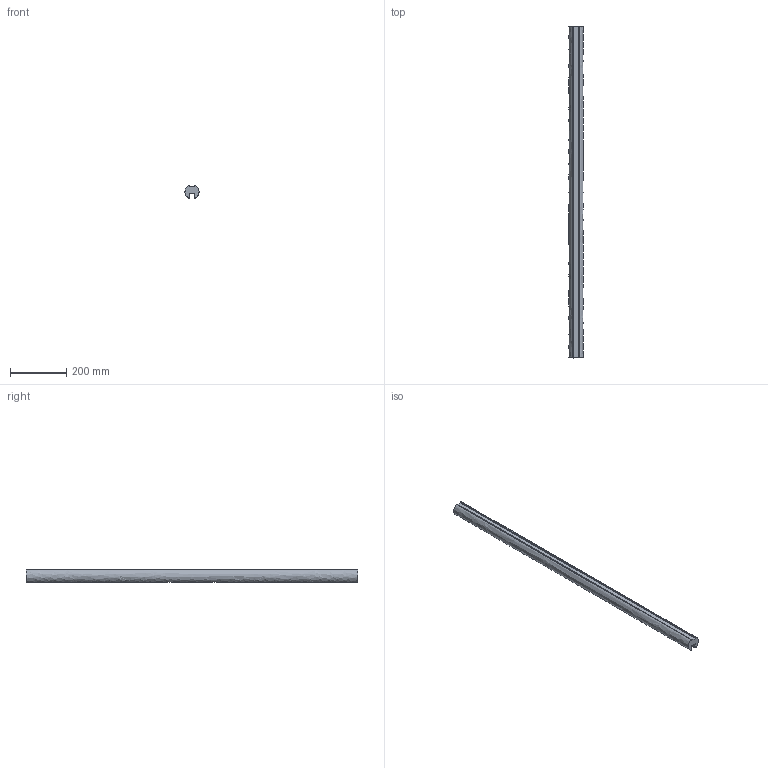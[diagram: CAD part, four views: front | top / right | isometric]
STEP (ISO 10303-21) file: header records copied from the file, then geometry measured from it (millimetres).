
FILE_DESCRIPTION(/* description */ (''),/* implementation_level */ '2;1');
FILE_NAME(/* name */ 'Gople System - Track 1180',/* time_stamp */ '2023-03-13T11:36:35+01:00',/* author */ (''),/* organization */ (''),/* preprocessor_version */ 'ST-DEVELOPER v16.5',/* originating_system */ 'Rhino 7.27',/* authorisation */ '');
FILE_SCHEMA (('AUTOMOTIVE_DESIGN'));
Length unit declared in the file: millimetre
Products named in the file (1): Document
Bounding box: 49.99 x 1180 x 45.24 mm (x, y, z)
Volume: 1728025.3 mm3; surface area: 252157.6 mm2
Topology: 1 solids, 1 shells, 28 faces, 78 edges, 52 vertices
Faces by surface type: plane 16, cylinder 10, bspline 2
Entity records: 878 total; most frequent: CARTESIAN_POINT 396, ORIENTED_EDGE 156, EDGE_CURVE 78, VERTEX_POINT 52, DIRECTION 30, ADVANCED_FACE 28, FACE_OUTER_BOUND 28, EDGE_LOOP 28
